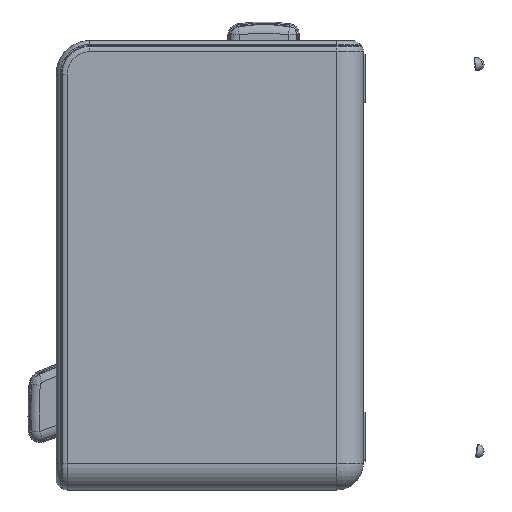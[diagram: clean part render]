
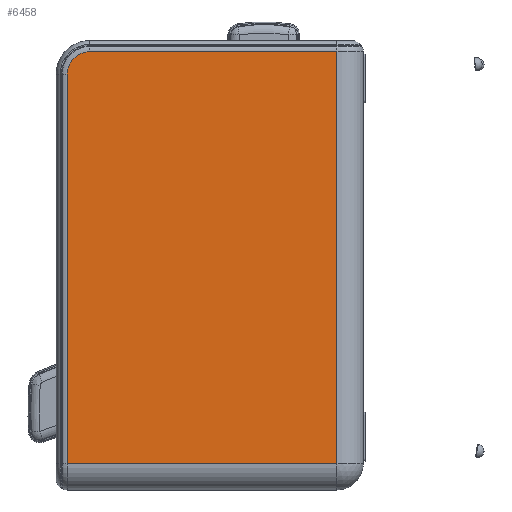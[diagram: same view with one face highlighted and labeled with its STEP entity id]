
A CAD part, left-side view. The second image highlights one B-rep face of the part: STEP entity #6458.
In plain terms, the highlighted planar face has unit normal (-1, 0, 0).
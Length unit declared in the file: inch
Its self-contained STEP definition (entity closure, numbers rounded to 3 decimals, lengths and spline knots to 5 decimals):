
#215=PLANE('',#6999);
#355=LINE('',#10487,#690);
#356=LINE('',#10496,#691);
#363=LINE('',#10534,#698);
#365=LINE('',#10540,#700);
#690=VECTOR('',#8069,0.3937);
#691=VECTOR('',#8082,0.3937);
#698=VECTOR('',#8129,0.3937);
#700=VECTOR('',#8139,0.3937);
#1219=FACE_OUTER_BOUND('',#1692,.T.);
#1692=EDGE_LOOP('',(#4430,#4431,#4432,#4433,#4434));
#2199=CIRCLE('',#6973,1.5);
#2786=VERTEX_POINT('',#10484);
#2787=VERTEX_POINT('',#10486);
#2788=VERTEX_POINT('',#10490);
#2789=VERTEX_POINT('',#10494);
#2800=VERTEX_POINT('',#10532);
#3371=EDGE_CURVE('',#2786,#2787,#355,.T.);
#3374=EDGE_CURVE('',#2788,#2786,#2199,.T.);
#3376=EDGE_CURVE('',#2789,#2788,#356,.T.);
#3395=EDGE_CURVE('',#2800,#2789,#363,.T.);
#3398=EDGE_CURVE('',#2787,#2800,#365,.T.);
#4430=ORIENTED_EDGE('',*,*,#3398,.F.);
#4431=ORIENTED_EDGE('',*,*,#3371,.F.);
#4432=ORIENTED_EDGE('',*,*,#3374,.F.);
#4433=ORIENTED_EDGE('',*,*,#3376,.F.);
#4434=ORIENTED_EDGE('',*,*,#3395,.F.);
#6458=ADVANCED_FACE('',(#1219),#215,.T.);
#6973=AXIS2_PLACEMENT_3D('',#10492,#8076,#8077);
#6999=AXIS2_PLACEMENT_3D('',#10539,#8137,#8138);
#8069=DIRECTION('',(0.,-1.,0.));
#8076=DIRECTION('center_axis',(1.,0.,0.));
#8077=DIRECTION('ref_axis',(0.,0.707,0.707));
#8082=DIRECTION('',(0.,0.,1.));
#8129=DIRECTION('',(0.,1.,0.));
#8137=DIRECTION('center_axis',(-1.,0.,0.));
#8138=DIRECTION('ref_axis',(0.,0.,1.));
#8139=DIRECTION('',(0.,0.,-1.));
#10484=CARTESIAN_POINT('',(-4.25,18.25,29.25));
#10486=CARTESIAN_POINT('',(-4.25,1.75,29.25));
#10487=CARTESIAN_POINT('',(-4.25,5.125,29.25));
#10490=CARTESIAN_POINT('',(-4.25,19.75,27.75));
#10492=CARTESIAN_POINT('Origin',(-4.25,18.25,27.75));
#10494=CARTESIAN_POINT('',(-4.25,19.75,1.75));
#10496=CARTESIAN_POINT('',(-4.25,19.75,22.5));
#10532=CARTESIAN_POINT('',(-4.25,1.75,1.75));
#10534=CARTESIAN_POINT('',(-4.25,15.375,1.75));
#10539=CARTESIAN_POINT('Origin',(-4.25,10.25,15.));
#10540=CARTESIAN_POINT('',(-4.25,1.75,7.5));
